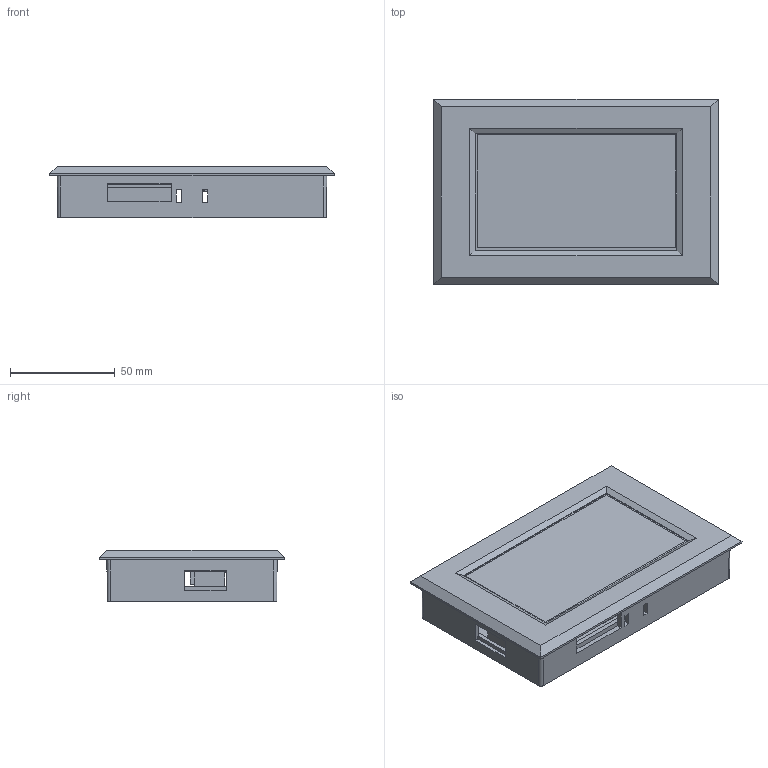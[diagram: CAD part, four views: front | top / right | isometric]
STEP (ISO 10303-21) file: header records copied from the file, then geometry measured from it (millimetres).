
FILE_DESCRIPTION(/* description */ (''),/* implementation_level */ '2;1');
FILE_NAME(/* name */ '',/* time_stamp */ '2023-06-14T20:22:37+08:00',/* author */ (''),/* organization */ (''),/* preprocessor_version */ 'ST-DEVELOPER v11',/* originating_system */ 'SIEMENS PLM Software NX 7.5',/* authorisation */ '');
FILE_SCHEMA (('AP203_CONFIGURATION_CONTROLLED_3D_DESIGN_OF_MECHANICAL_PARTS_AND_ASSEMBLIES_MIM_LF'));
Length unit declared in the file: millimetre
Products named in the file (1): SDWn043C33S
Bounding box: 135.9 x 88.5 x 24.5 mm (x, y, z)
Volume: 88944.2 mm3; surface area: 114458.6 mm2
Topology: 80 solids, 80 shells, 962 faces, 2332 edges, 1556 vertices
Faces by surface type: plane 686, cylinder 164, bspline 80, cone 24, sphere 4, torus 4
Full cylindrical faces by diameter (mm): 2 x4, 2.874 x4, 3 x4, 3.2 x12, 5.6 x4, 7 x12
Entity records: 29581 total; most frequent: CARTESIAN_POINT 5598, ORIENTED_EDGE 4488, DIRECTION 4321, EDGE_CURVE 2244, LINE 1739, VECTOR 1739, VERTEX_POINT 1532, AXIS2_PLACEMENT_3D 1291
